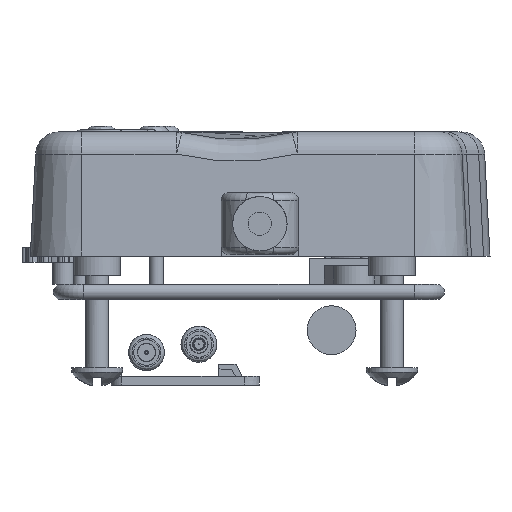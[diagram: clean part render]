
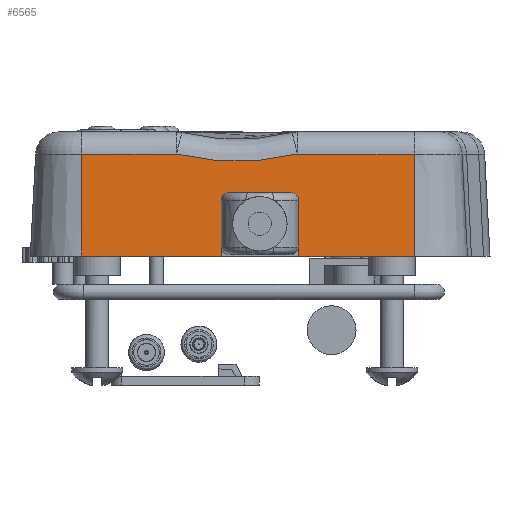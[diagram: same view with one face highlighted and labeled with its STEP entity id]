
A CAD part, left-side view. The second image highlights one B-rep face of the part: STEP entity #6565.
In plain terms, the highlighted planar face has unit normal (-0.999, 0, 0.052).
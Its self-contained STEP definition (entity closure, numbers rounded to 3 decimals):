
#1708=ELLIPSE('',#64757,1.001,1.);
#1709=ELLIPSE('',#64758,1.001,1.);
#3631=B_SPLINE_CURVE_WITH_KNOTS('',3,(#91278,#91279,#91280,#91281),
 .UNSPECIFIED.,.F.,.F.,(4,4),(0.,1.),.UNSPECIFIED.);
#3632=B_SPLINE_CURVE_WITH_KNOTS('',3,(#91285,#91286,#91287,#91288,#91289,
#91290),.UNSPECIFIED.,.F.,.F.,(4,2,4),(0.,0.5,1.),.UNSPECIFIED.);
#3633=B_SPLINE_CURVE_WITH_KNOTS('',3,(#91294,#91295,#91296,#91297),
 .UNSPECIFIED.,.F.,.F.,(4,4),(0.,1.),.UNSPECIFIED.);
#3634=B_SPLINE_CURVE_WITH_KNOTS('',3,(#91299,#91300,#91301,#91302),
 .UNSPECIFIED.,.F.,.F.,(4,4),(0.,1.),.UNSPECIFIED.);
#6565=ADVANCED_FACE('',(#12215),#9759,.F.);
#9759=PLANE('',#64759);
#12215=FACE_OUTER_BOUND('',#15598,.T.);
#15598=EDGE_LOOP('',(#22339,#22340,#22341,#22342,#22343,#22344,#22345,#22346,
#22347,#22348,#22349,#22350,#22351));
#22339=ORIENTED_EDGE('',*,*,#43991,.T.);
#22340=ORIENTED_EDGE('',*,*,#43992,.T.);
#22341=ORIENTED_EDGE('',*,*,#43993,.T.);
#22342=ORIENTED_EDGE('',*,*,#43994,.T.);
#22343=ORIENTED_EDGE('',*,*,#43995,.T.);
#22344=ORIENTED_EDGE('',*,*,#43996,.F.);
#22345=ORIENTED_EDGE('',*,*,#43997,.T.);
#22346=ORIENTED_EDGE('',*,*,#43998,.T.);
#22347=ORIENTED_EDGE('',*,*,#43999,.T.);
#22348=ORIENTED_EDGE('',*,*,#44000,.T.);
#22349=ORIENTED_EDGE('',*,*,#44001,.T.);
#22350=ORIENTED_EDGE('',*,*,#44002,.T.);
#22351=ORIENTED_EDGE('',*,*,#44003,.F.);
#37528=VERTEX_POINT('',#91266);
#37529=VERTEX_POINT('',#91267);
#37530=VERTEX_POINT('',#91269);
#37531=VERTEX_POINT('',#91271);
#37532=VERTEX_POINT('',#91273);
#37533=VERTEX_POINT('',#91275);
#37534=VERTEX_POINT('',#91277);
#37535=VERTEX_POINT('',#91282);
#37536=VERTEX_POINT('',#91284);
#37537=VERTEX_POINT('',#91291);
#37538=VERTEX_POINT('',#91293);
#37539=VERTEX_POINT('',#91298);
#37540=VERTEX_POINT('',#91303);
#43991=EDGE_CURVE('',#37528,#37529,#52190,.T.);
#43992=EDGE_CURVE('',#37529,#37530,#1708,.T.);
#43993=EDGE_CURVE('',#37530,#37531,#52191,.T.);
#43994=EDGE_CURVE('',#37531,#37532,#1709,.T.);
#43995=EDGE_CURVE('',#37532,#37533,#52192,.T.);
#43996=EDGE_CURVE('',#37534,#37533,#52193,.T.);
#43997=EDGE_CURVE('',#37534,#37535,#3631,.T.);
#43998=EDGE_CURVE('',#37535,#37536,#52194,.T.);
#43999=EDGE_CURVE('',#37536,#37537,#3632,.T.);
#44000=EDGE_CURVE('',#37537,#37538,#52195,.T.);
#44001=EDGE_CURVE('',#37538,#37539,#3633,.T.);
#44002=EDGE_CURVE('',#37539,#37540,#3634,.T.);
#44003=EDGE_CURVE('',#37528,#37540,#52196,.T.);
#52190=LINE('',#91265,#58591);
#52191=LINE('',#91270,#58592);
#52192=LINE('',#91274,#58593);
#52193=LINE('',#91276,#58594);
#52194=LINE('',#91283,#58595);
#52195=LINE('',#91292,#58596);
#52196=LINE('',#91304,#58597);
#58591=VECTOR('',#71950,1.);
#58592=VECTOR('',#71953,1.);
#58593=VECTOR('',#71956,1.);
#58594=VECTOR('',#71957,1.);
#58595=VECTOR('',#71958,1.);
#58596=VECTOR('',#71959,1.);
#58597=VECTOR('',#71960,1.);
#64757=AXIS2_PLACEMENT_3D('',#91268,#71951,#71952);
#64758=AXIS2_PLACEMENT_3D('',#91272,#71954,#71955);
#64759=AXIS2_PLACEMENT_3D('',#91305,#71961,#71962);
#71950=DIRECTION('',(0.052,0.,0.999));
#71951=DIRECTION('',(0.999,0.,-0.052));
#71952=DIRECTION('',(-0.052,0.,-0.999));
#71953=DIRECTION('',(0.,-1.,0.));
#71954=DIRECTION('',(0.999,0.,-0.052));
#71955=DIRECTION('',(-0.052,0.,-0.999));
#71956=DIRECTION('',(-0.052,0.,-0.999));
#71957=DIRECTION('',(0.,1.,0.));
#71958=DIRECTION('',(0.,1.,0.));
#71959=DIRECTION('',(0.,1.,0.));
#71960=DIRECTION('',(0.,1.,0.));
#71961=DIRECTION('',(0.999,0.,-0.052));
#71962=DIRECTION('',(0.052,0.,0.999));
#91265=CARTESIAN_POINT('',(-32.512,2.6,15.419));
#91266=CARTESIAN_POINT('',(-32.569,2.6,14.33));
#91267=CARTESIAN_POINT('',(-32.193,2.6,21.5));
#91268=CARTESIAN_POINT('',(-32.193,1.6,21.5));
#91269=CARTESIAN_POINT('',(-32.141,1.6,22.5));
#91270=CARTESIAN_POINT('',(-32.141,-1.931,22.5));
#91271=CARTESIAN_POINT('',(-32.141,-6.4,22.5));
#91272=CARTESIAN_POINT('',(-32.193,-6.4,21.5));
#91273=CARTESIAN_POINT('',(-32.193,-7.4,21.5));
#91274=CARTESIAN_POINT('',(-32.512,-7.4,15.419));
#91275=CARTESIAN_POINT('',(-32.569,-7.4,14.33));
#91276=CARTESIAN_POINT('',(-32.569,-1.931,14.33));
#91277=CARTESIAN_POINT('',(-32.569,-22.304,14.33));
#91278=CARTESIAN_POINT('',(-32.569,-22.304,14.33));
#91279=CARTESIAN_POINT('',(-32.339,-22.304,18.715));
#91280=CARTESIAN_POINT('',(-32.11,-22.304,23.101));
#91281=CARTESIAN_POINT('',(-31.88,-22.304,27.487));
#91282=CARTESIAN_POINT('',(-31.88,-22.304,27.487));
#91283=CARTESIAN_POINT('',(-31.88,-5.646,27.487));
#91284=CARTESIAN_POINT('',(-31.88,-7.23,27.487));
#91285=CARTESIAN_POINT('',(-31.88,-7.23,27.487));
#91286=CARTESIAN_POINT('',(-31.913,-4.658,26.859));
#91287=CARTESIAN_POINT('',(-31.929,-2.068,26.545));
#91288=CARTESIAN_POINT('',(-31.93,3.148,26.534));
#91289=CARTESIAN_POINT('',(-31.913,5.797,26.847));
#91290=CARTESIAN_POINT('',(-31.88,8.367,27.487));
#91291=CARTESIAN_POINT('',(-31.88,8.367,27.487));
#91292=CARTESIAN_POINT('',(-31.88,20.593,27.487));
#91293=CARTESIAN_POINT('',(-31.877,20.593,27.487));
#91294=CARTESIAN_POINT('',(-31.88,20.593,27.487));
#91295=CARTESIAN_POINT('',(-32.043,20.593,24.372));
#91296=CARTESIAN_POINT('',(-32.206,20.593,21.258));
#91297=CARTESIAN_POINT('',(-32.369,20.593,18.143));
#91298=CARTESIAN_POINT('',(-32.369,20.593,18.143));
#91299=CARTESIAN_POINT('',(-32.369,20.593,18.143));
#91300=CARTESIAN_POINT('',(-32.436,20.593,16.872));
#91301=CARTESIAN_POINT('',(-32.503,20.593,15.601));
#91302=CARTESIAN_POINT('',(-32.569,20.593,14.33));
#91303=CARTESIAN_POINT('',(-32.567,20.593,14.33));
#91304=CARTESIAN_POINT('',(-32.569,-1.931,14.33));
#91305=CARTESIAN_POINT('',(-32.512,-1.931,15.419));
